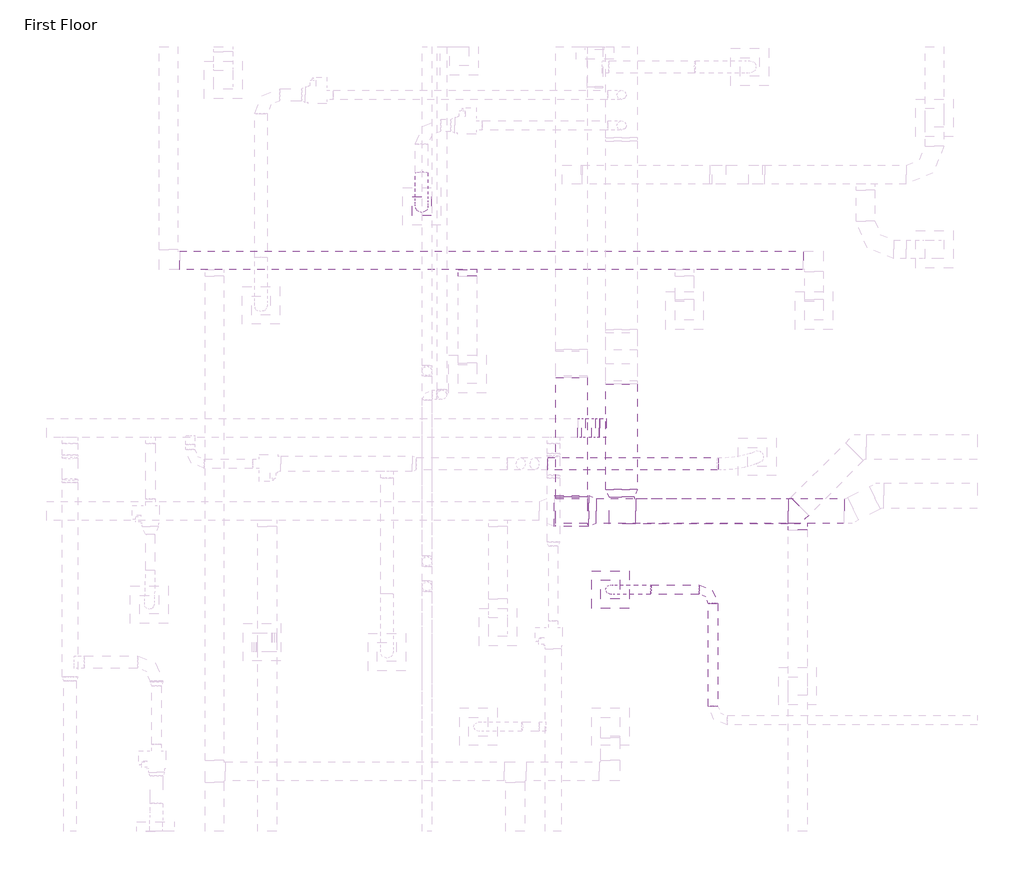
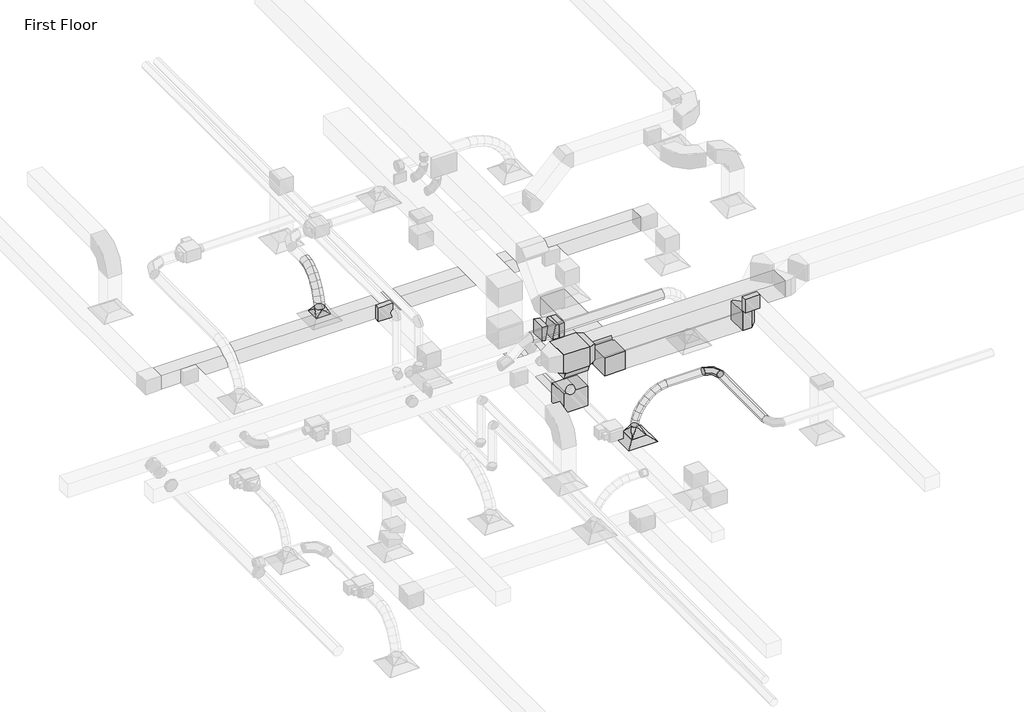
# One storey, part 7 of 61: 15 duct fittings, 13 duct segments, 1 air terminal.
"""IFC4 building model written with IfcOpenShell, lengths in millimetres."""

from ifc_helpers import new_model, si_unit, point, frame, frame_2d, origin, place, context, project, spatial, polyline, circle_curve, ellipse_curve, trimmed, segment, composite_curve, outline, extrude, transform, mapped, element, save
from ifc_brep_helpers import plane_surface, cylinder_surface, advanced_brep
from components import m_exhaust_grill_er_600_x_600_face_300_x_300_connection_ff221211, m_rectangular_elbow_mitered_standard_bc5a5ab9, m_rectangular_elbow_mitered_standard_a087e208, m_rectangular_elbow_mitered_standard_b8a34dab, m_rectangular_elbow_radius_1_5_w_c61c983d, m_rectangular_takeoff_standard_c00386d1, m_rectangular_takeoff_standard_b44bfa45, m_rectangular_tee_standard_384d0ccf, m_rectangular_transition_angle_45_degree_4ae395e8, m_rectangular_transition_angle_45_degree_444e99e6, m_rectangular_transition_angle_45_degree_66392caa, m_rectangular_to_round_transition_angle_45_degree_8f201c83, m_rectangular_to_round_transition_angle_45_degree_60daae35, m_round_elbow_1_5_d_2e586196

model = new_model("IFC4")

# Units and contexts
model_context = context("Model", 3, world=origin())
ifc_project = project(units=[si_unit("LENGTHUNIT", "METRE", prefix="MILLI")], contexts=[model_context])

# Site, building, storey
site = spatial("IfcSite", under=ifc_project)
building = spatial("IfcBuilding", under=site)
storey = spatial("IfcBuildingStorey", under=building, Name="First Floor", Elevation=0.0)

# Air terminal
placement = place(None, origin())
m_exhaust_grill_er_600_x_600_face_300_x_300_connection_shape = m_exhaust_grill_er_600_x_600_face_300_x_300_connection_ff221211(model_context)
element("IfcAirTerminal", 1, ObjectType="M_Supply Diffuser : SD-600 x 600 Face 300 x 300 Connection", at=placement, inside=storey, context=model_context, shape_type="MappedRepresentation", body=[
    mapped(m_exhaust_grill_er_600_x_600_face_300_x_300_connection_shape, transform((-39248.7372444, 9280.9107499, 2680.0), x_axis=(1.0, 0.0, 0.0), y_axis=(0.0, 1.0, 0.0), z_axis=(0.0, 0.0, 1.0))),
])

# Duct fittings
m_rectangular_elbow_mitered_standard_shape = m_rectangular_elbow_mitered_standard_bc5a5ab9(model_context)
element("IfcDuctFitting", 2, ObjectType="M_Rectangular Elbow - Mitered : Standard", at=placement, inside=storey, context=model_context, shape_type="MappedRepresentation", body=[
    mapped(m_rectangular_elbow_mitered_standard_shape, transform((-36300.5425343, 10530.5078624, 3609.5), x_axis=(1.0, 0.0, 0.0), y_axis=(0.0, 1.0, 0.0), z_axis=(0.0, 0.0, 1.0))),
])
m_rectangular_elbow_mitered_standard_2_shape = m_rectangular_elbow_mitered_standard_a087e208(model_context)
element("IfcDuctFitting", 3, ObjectType="M_Rectangular Elbow - Mitered : Standard", at=placement, inside=storey, context=model_context, shape_type="MappedRepresentation", body=[
    mapped(m_rectangular_elbow_mitered_standard_2_shape, transform((-39067.4195561, 10530.5078624, 3609.5), x_axis=(0.0, -1.0, 0.0), y_axis=(1.0, 0.0, 0.0), z_axis=(0.0, 0.0, 1.0))),
])
m_rectangular_elbow_mitered_standard_3_shape = m_rectangular_elbow_mitered_standard_b8a34dab(model_context)
element("IfcDuctFitting", 4, ObjectType="M_Rectangular Elbow - Mitered : Standard", at=placement, inside=storey, context=model_context, shape_type="MappedRepresentation", body=[
    mapped(m_rectangular_elbow_mitered_standard_3_shape, transform((-39867.4195561, 10534.5124787, 3081.0), x_axis=(0.0, 0.0, -1.0), y_axis=(0.0, 1.0, 0.0), z_axis=(1.0, 0.0, 0.0))),
])
m_rectangular_elbow_radius_1_5_w_shape = m_rectangular_elbow_radius_1_5_w_c61c983d(model_context)
element("IfcDuctFitting", 5, ObjectType="M_Rectangular Elbow - Radius : 1.5 W", at=placement, inside=storey, context=model_context, shape_type="MappedRepresentation", body=[
    mapped(m_rectangular_elbow_radius_1_5_w_shape, transform((-39720.9822846, 11861.1885196, 3659.6), x_axis=(-0.9805051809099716, 0.0, 0.19649323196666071), y_axis=(-0.19649323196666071, 0.0, -0.9805051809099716), z_axis=(0.0, -1.0, 0.0))),
])
element("IfcDuctFitting", 6, ObjectType="M_Rectangular Elbow - Radius : 1.5 W", at=placement, inside=storey, context=model_context, shape_type="MappedRepresentation", body=[
    mapped(m_rectangular_elbow_radius_1_5_w_shape, transform((-39470.9822766, 11861.1885196, 3609.5), x_axis=(0.9805051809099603, 0.0, -0.19649323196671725), y_axis=(0.19649323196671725, 0.0, 0.9805051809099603), z_axis=(0.0, -1.0, 0.0))),
])
m_rectangular_takeoff_standard_shape = m_rectangular_takeoff_standard_c00386d1(model_context)
element("IfcDuctFitting", 7, ObjectType="M_Rectangular Takeoff : Standard", at=placement, inside=storey, context=model_context, shape_type="MappedRepresentation", body=[
    mapped(m_rectangular_takeoff_standard_shape, transform((-36259.5438707, 10334.5124787, 4000.0), x_axis=(0.0, -1.0, 0.0), y_axis=(-1.0, 0.0, 0.0), z_axis=(0.0, 0.0, -1.0))),
])
element("IfcDuctFitting", 8, ObjectType="M_Rectangular Takeoff : Standard", at=placement, inside=storey, context=model_context, shape_type="MappedRepresentation", body=[
    mapped(m_rectangular_takeoff_standard_shape, transform((-39317.4195561, 11861.1885196, 3609.5), x_axis=(-1.0, 0.0, 0.0), y_axis=(0.0, 1.0, 0.0), z_axis=(0.0, 0.0, -1.0))),
])
m_rectangular_takeoff_standard_2_shape = m_rectangular_takeoff_standard_b44bfa45(model_context)
element("IfcDuctFitting", 9, ObjectType="M_Rectangular Takeoff : Standard", at=placement, inside=storey, context=model_context, shape_type="MappedRepresentation", body=[
    mapped(m_rectangular_takeoff_standard_2_shape, transform((-41527.8542363, 14384.3952, 3200.0), x_axis=(0.0, -1.0, 0.0), y_axis=(-1.0, 0.0, 0.0), z_axis=(0.0, 0.0, -1.0))),
])
m_rectangular_tee_standard_shape = m_rectangular_tee_standard_384d0ccf(model_context)
element("IfcDuctFitting", 10, ObjectType="M_Rectangular Tee : Standard", at=placement, inside=storey, context=model_context, shape_type="MappedRepresentation", body=[
    mapped(m_rectangular_tee_standard_shape, transform((-39867.4195561, 10534.5124787, 4000.0), x_axis=(-1.0, 0.0, 0.0), y_axis=(0.0, 0.0, 1.0), z_axis=(0.0, 1.0, 0.0))),
])
m_rectangular_transition_angle_45_degree_shape = m_rectangular_transition_angle_45_degree_4ae395e8(model_context)
element("IfcDuctFitting", 11, ObjectType="M_Rectangular Transition - Angle : 45 Degree", at=placement, inside=storey, context=model_context, shape_type="MappedRepresentation", body=[
    mapped(m_rectangular_transition_angle_45_degree_shape, transform((-39067.4195561, 10755.5078624, 3609.5), x_axis=(0.0, 1.0, 0.0), y_axis=(-1.0, 0.0, 0.0), z_axis=(0.0, 0.0, 1.0))),
])
m_rectangular_transition_angle_45_degree_2_shape = m_rectangular_transition_angle_45_degree_444e99e6(model_context)
element("IfcDuctFitting", 12, ObjectType="M_Rectangular Transition - Angle : 45 Degree", at=placement, inside=storey, context=model_context, shape_type="MappedRepresentation", body=[
    mapped(m_rectangular_transition_angle_45_degree_2_shape, transform((-39867.4195561, 10534.5124787, 3775.0), x_axis=(0.0, 0.0, -1.0), y_axis=(-1.0, 0.0, 0.0), z_axis=(0.0, 1.0, 0.0))),
])
m_rectangular_transition_angle_45_degree_3_shape = m_rectangular_transition_angle_45_degree_66392caa(model_context)
element("IfcDuctFitting", 13, ObjectType="M_Rectangular Transition - Angle : 45 Degree", at=placement, inside=storey, context=model_context, shape_type="MappedRepresentation", body=[
    mapped(m_rectangular_transition_angle_45_degree_3_shape, transform((-39592.4195561, 10534.5124787, 4000.0), x_axis=(1.0, 0.0, 0.0), y_axis=(0.0, 1.0, 0.0), z_axis=(0.0, 0.0, 1.0))),
])
m_rectangular_to_round_transition_angle_45_degree_shape = m_rectangular_to_round_transition_angle_45_degree_8f201c83(model_context)
element("IfcDuctFitting", 14, ObjectType="M_Rectangular to Round Transition - Angle : 45 Degree", at=placement, inside=storey, context=model_context, shape_type="MappedRepresentation", body=[
    mapped(m_rectangular_to_round_transition_angle_45_degree_shape, transform((-39248.7372444, 9280.9107499, 2781.6), x_axis=(0.0, 0.0, 1.0), y_axis=(1.0, 0.0, 0.0), z_axis=(0.0, 1.0, 0.0))),
])
m_rectangular_to_round_transition_angle_45_degree_2_shape = m_rectangular_to_round_transition_angle_45_degree_60daae35(model_context)
element("IfcDuctFitting", 15, ObjectType="M_Rectangular to Round Transition - Angle : 45 Degree", at=placement, inside=storey, context=model_context, shape_type="MappedRepresentation", body=[
    mapped(m_rectangular_to_round_transition_angle_45_degree_2_shape, transform((-42258.150392, 15399.5611412, 2781.6), x_axis=(0.0, 0.0, 1.0), y_axis=(1.0, 0.0, 0.0), z_axis=(0.0, 1.0, 0.0))),
])
m_round_elbow_1_5_d_shape = m_round_elbow_1_5_d_2e586196(model_context)
element("IfcDuctFitting", 16, ObjectType="M_Round Elbow : 1.5 D", at=placement, inside=storey, context=model_context, shape_type="MappedRepresentation", body=[
    mapped(m_round_elbow_1_5_d_shape, transform((-37607.2625281, 9280.9107499, 3644.1), x_axis=(0.0, 1.0, 0.0), y_axis=(-1.0, 0.0, 0.0), z_axis=(0.0, 0.0, 1.0))),
])

# Duct segments
element("IfcDuctSegment", 17, ObjectType="Flex - Round", at=placement, inside=storey, context=model_context, shape_type="AdvancedBrep", body=[
    advanced_brep(
    [(-38607.2625281, 9205.9107499, 3644.1), (-38595.4267802, 9280.9107499, 3570.0397875), (-38607.2625281, 9355.9107499, 3644.1), (-38619.0982759, 9280.9107499, 3718.1602125), (-38741.0209428, 9205.9107499, 3622.723733), (-38719.1636966, 9280.9107499, 3550.2650813), (-38741.0209428, 9355.9107499, 3622.723733), (-38762.8781891, 9280.9107499, 3695.1823848), (-39248.7372444, 9205.9107499, 2962.6660172), (-39323.0033413, 9280.9107499, 2973.1324801), (-39248.7372444, 9355.9107499, 2962.6660172), (-39174.4711474, 9280.9107499, 2952.1995543), (-38870.858733, 9205.9107499, 3563.5745662), (-38832.4447178, 9280.9107499, 3498.6585497), (-38870.858733, 9355.9107499, 3563.5745662), (-38909.2727482, 9280.9107499, 3628.4905827), (-38990.7044394, 9205.9107499, 3474.1219504), (-38940.3116745, 9280.9107499, 3418.1468507), (-38990.7044394, 9355.9107499, 3474.1219504), (-39041.0972043, 9280.9107499, 3530.09705), (-39094.4866029, 9205.9107499, 3361.8353366), (-39034.8913293, 9280.9107499, 3315.816847), (-39094.4866029, 9355.9107499, 3361.8353366), (-39154.0818764, 9280.9107499, 3407.8538262), (-39176.1337643, 9205.9107499, 3234.1841758), (-39109.0304497, 9280.9107499, 3199.9041244), (-39176.1337643, 9355.9107499, 3234.1841758), (-39243.2370789, 9280.9107499, 3268.4642273), (-39229.5744645, 9205.9107499, 3098.637919), (-39156.5467335, 9280.9107499, 3079.3844759), (-39229.5744645, 9355.9107499, 3098.637919), (-39302.6021955, 9280.9107499, 3117.8913621)],
    [
        (0, 1, circle_curve(frame((-38607.2625281, 9280.9107499, 3644.1), z_axis=(0.9874694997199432, 0.0, 0.15780997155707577), x_axis=(0.0, -1.0, 0.0)), 75.0)),
        (1, 2, circle_curve(frame((-38607.2625281, 9280.9107499, 3644.1), z_axis=(0.9874694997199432, 0.0, 0.15780997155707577), x_axis=(0.0, -1.0, 0.0)), 75.0)),
        (2, 3, circle_curve(frame((-38607.2625281, 9280.9107499, 3644.1), z_axis=(0.9874694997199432, 0.0, 0.15780997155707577), x_axis=(0.0, -1.0, 0.0)), 75.0)),
        (3, 0, circle_curve(frame((-38607.2625281, 9280.9107499, 3644.1), z_axis=(0.9874694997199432, 0.0, 0.15780997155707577), x_axis=(0.0, -1.0, 0.0)), 75.0)),
        (0, 4),
        (4, 5, ellipse_curve(frame((-38741.0209428, 9280.9107499, 3622.723733), z_axis=(0.9573900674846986, 0.0, 0.2887979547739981), x_axis=(0.28879795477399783, 0.0, -0.9573900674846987)), 75.6835215, 75.0)),
        (5, 1),
        (5, 6, ellipse_curve(frame((-38741.0209428, 9280.9107499, 3622.723733), z_axis=(0.9573900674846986, 0.0, 0.2887979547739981), x_axis=(0.28879795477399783, 0.0, -0.9573900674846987)), 75.6835215, 75.0)),
        (6, 2),
        (6, 7, ellipse_curve(frame((-38741.0209428, 9280.9107499, 3622.723733), z_axis=(0.9573900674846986, 0.0, 0.2887979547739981), x_axis=(0.28879795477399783, 0.0, -0.9573900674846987)), 75.6835215, 75.0)),
        (7, 3),
        (7, 4, ellipse_curve(frame((-38741.0209428, 9280.9107499, 3622.723733), z_axis=(0.9573900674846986, 0.0, 0.2887979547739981), x_axis=(0.28879795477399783, 0.0, -0.9573900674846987)), 75.6835215, 75.0)),
        (8, 9, circle_curve(frame((-39248.7372444, 9280.9107499, 2962.6660172), z_axis=(-0.13955283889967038, 0.0, -0.9902146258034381), x_axis=(0.0, -1.0, 0.0)), 75.0)),
        (9, 10, circle_curve(frame((-39248.7372444, 9280.9107499, 2962.6660172), z_axis=(-0.13955283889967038, 0.0, -0.9902146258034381), x_axis=(0.0, -1.0, 0.0)), 75.0)),
        (10, 11, circle_curve(frame((-39248.7372444, 9280.9107499, 2962.6660172), z_axis=(-0.13955283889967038, 0.0, -0.9902146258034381), x_axis=(0.0, -1.0, 0.0)), 75.0)),
        (11, 8, circle_curve(frame((-39248.7372444, 9280.9107499, 2962.6660172), z_axis=(-0.13955283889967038, 0.0, -0.9902146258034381), x_axis=(0.0, -1.0, 0.0)), 75.0)),
        (4, 12),
        (12, 13, ellipse_curve(frame((-38870.858733, 9280.9107499, 3563.5745662), z_axis=(0.86060961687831, 0.0, 0.5092652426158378), x_axis=(0.5092652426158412, 0.0, -0.8606096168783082)), 75.4302709, 75.0)),
        (13, 5),
        (13, 14, ellipse_curve(frame((-38870.858733, 9280.9107499, 3563.5745662), z_axis=(0.86060961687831, 0.0, 0.5092652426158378), x_axis=(0.5092652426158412, 0.0, -0.8606096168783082)), 75.4302709, 75.0)),
        (14, 6),
        (14, 15, ellipse_curve(frame((-38870.858733, 9280.9107499, 3563.5745662), z_axis=(0.86060961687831, 0.0, 0.5092652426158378), x_axis=(0.5092652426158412, 0.0, -0.8606096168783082)), 75.4302709, 75.0)),
        (15, 7),
        (15, 12, ellipse_curve(frame((-38870.858733, 9280.9107499, 3563.5745662), z_axis=(0.86060961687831, 0.0, 0.5092652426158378), x_axis=(0.5092652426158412, 0.0, -0.8606096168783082)), 75.4302709, 75.0)),
        (12, 16),
        (16, 17, ellipse_curve(frame((-38990.7044394, 9280.9107499, 3474.1219504), z_axis=(0.743193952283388, 0.0, 0.6690760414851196), x_axis=(0.6690760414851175, 0.0, -0.7431939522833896)), 75.3169472, 75.0)),
        (17, 13),
        (17, 18, ellipse_curve(frame((-38990.7044394, 9280.9107499, 3474.1219504), z_axis=(0.743193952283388, 0.0, 0.6690760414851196), x_axis=(0.6690760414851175, 0.0, -0.7431939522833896)), 75.3169472, 75.0)),
        (18, 14),
        (18, 19, ellipse_curve(frame((-38990.7044394, 9280.9107499, 3474.1219504), z_axis=(0.743193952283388, 0.0, 0.6690760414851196), x_axis=(0.6690760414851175, 0.0, -0.7431939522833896)), 75.3169472, 75.0)),
        (19, 15),
        (19, 16, ellipse_curve(frame((-38990.7044394, 9280.9107499, 3474.1219504), z_axis=(0.743193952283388, 0.0, 0.6690760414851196), x_axis=(0.6690760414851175, 0.0, -0.7431939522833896)), 75.3169472, 75.0)),
        (16, 20),
        (20, 21, ellipse_curve(frame((-39094.4866029, 9280.9107499, 3361.8353366), z_axis=(0.6111780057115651, 0.0, 0.7914931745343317), x_axis=(0.7914931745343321, 0.0, -0.6111780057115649)), 75.2947409, 75.0)),
        (21, 17),
        (21, 22, ellipse_curve(frame((-39094.4866029, 9280.9107499, 3361.8353366), z_axis=(0.6111780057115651, 0.0, 0.7914931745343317), x_axis=(0.7914931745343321, 0.0, -0.6111780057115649)), 75.2947409, 75.0)),
        (22, 18),
        (22, 23, ellipse_curve(frame((-39094.4866029, 9280.9107499, 3361.8353366), z_axis=(0.6111780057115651, 0.0, 0.7914931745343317), x_axis=(0.7914931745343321, 0.0, -0.6111780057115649)), 75.2947409, 75.0)),
        (23, 19),
        (23, 20, ellipse_curve(frame((-39094.4866029, 9280.9107499, 3361.8353366), z_axis=(0.6111780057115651, 0.0, 0.7914931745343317), x_axis=(0.7914931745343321, 0.0, -0.6111780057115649)), 75.2947409, 75.0)),
        (20, 24),
        (24, 25, ellipse_curve(frame((-39176.1337643, 9280.9107499, 3234.1841758), z_axis=(0.4549300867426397, 0.0, 0.8905271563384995), x_axis=(0.8905271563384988, 0.0, -0.45493008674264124)), 75.3523507, 75.0)),
        (25, 21),
        (25, 26, ellipse_curve(frame((-39176.1337643, 9280.9107499, 3234.1841758), z_axis=(0.4549300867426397, 0.0, 0.8905271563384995), x_axis=(0.8905271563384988, 0.0, -0.45493008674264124)), 75.3523507, 75.0)),
        (26, 22),
        (26, 27, ellipse_curve(frame((-39176.1337643, 9280.9107499, 3234.1841758), z_axis=(0.4549300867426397, 0.0, 0.8905271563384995), x_axis=(0.8905271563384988, 0.0, -0.45493008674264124)), 75.3523507, 75.0)),
        (27, 23),
        (27, 24, ellipse_curve(frame((-39176.1337643, 9280.9107499, 3234.1841758), z_axis=(0.4549300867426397, 0.0, 0.8905271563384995), x_axis=(0.8905271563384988, 0.0, -0.45493008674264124)), 75.3523507, 75.0)),
        (24, 28),
        (28, 29, ellipse_curve(frame((-39229.5744645, 9280.9107499, 3098.637919), z_axis=(0.25493435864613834, 0.0, 0.9669583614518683), x_axis=(0.9669583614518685, 0.0, -0.2549343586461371)), 75.5231393, 75.0)),
        (29, 25),
        (29, 30, ellipse_curve(frame((-39229.5744645, 9280.9107499, 3098.637919), z_axis=(0.25493435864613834, 0.0, 0.9669583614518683), x_axis=(0.9669583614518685, 0.0, -0.2549343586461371)), 75.5231393, 75.0)),
        (30, 26),
        (30, 31, ellipse_curve(frame((-39229.5744645, 9280.9107499, 3098.637919), z_axis=(0.25493435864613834, 0.0, 0.9669583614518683), x_axis=(0.9669583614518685, 0.0, -0.2549343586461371)), 75.5231393, 75.0)),
        (31, 27),
        (31, 28, ellipse_curve(frame((-39229.5744645, 9280.9107499, 3098.637919), z_axis=(0.25493435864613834, 0.0, 0.9669583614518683), x_axis=(0.9669583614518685, 0.0, -0.2549343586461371)), 75.5231393, 75.0)),
        (28, 8),
        (11, 29),
        (10, 30),
        (9, 31),
    ],
    [
        plane_surface(frame((-38607.2625281, 9355.9107499, 3644.1), z_axis=(0.9874694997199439, 0.0, 0.15780997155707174), x_axis=(0.15780997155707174, 0.0, -0.9874694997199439))),
        cylinder_surface(frame((-38607.2625281, 9280.9107499, 3644.1), z_axis=(0.9874694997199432, 0.0, 0.15780997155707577), x_axis=(0.0, -1.0, 0.0)), 75.0),
        plane_surface(frame((-39248.7372444, 9355.9107499, 2962.6660172), z_axis=(-0.1395528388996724, 0.0, -0.9902146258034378), x_axis=(0.9902146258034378, 0.0, -0.1395528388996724))),
        cylinder_surface(frame((-38741.0209428, 9280.9107499, 3622.723733), z_axis=(0.9100176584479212, 0.0, 0.4145694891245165), x_axis=(0.0, -1.0, 0.0)), 75.0),
        cylinder_surface(frame((-38870.858733, 9280.9107499, 3563.5745662), z_axis=(0.8013833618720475, 0.0, 0.5981510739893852), x_axis=(0.0, -1.0, 0.0)), 75.0),
        cylinder_surface(frame((-38990.7044394, 9280.9107499, 3474.1219504), z_axis=(0.6787495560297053, 0.0, 0.7343698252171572), x_axis=(0.0, -1.0, 0.0)), 75.0),
        cylinder_surface(frame((-39094.4866029, 9280.9107499, 3361.8353366), z_axis=(0.5388215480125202, 0.0, 0.8424199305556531), x_axis=(0.0, -1.0, 0.0)), 75.0),
        cylinder_surface(frame((-39176.1337643, 9280.9107499, 3234.1841758), z_axis=(0.36678408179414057, 0.0, 0.9303060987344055), x_axis=(0.0, -1.0, 0.0)), 75.0),
        cylinder_surface(frame((-39229.5744645, 9280.9107499, 3098.637919), z_axis=(0.13955283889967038, 0.0, 0.9902146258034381), x_axis=(0.0, -1.0, 0.0)), 75.0),
    ],
    [
        (0, [[1, 2, 3, 4]]),
        (1, [[-1, 5, 6, 7]]),
        (1, [[-2, -7, 8, 9]]),
        (1, [[-3, -9, 10, 11]]),
        (1, [[-4, -11, 12, -5]]),
        (2, [[13, 14, 15, 16]]),
        (3, [[-6, 17, 18, 19]]),
        (3, [[-8, -19, 20, 21]]),
        (3, [[-10, -21, 22, 23]]),
        (3, [[-12, -23, 24, -17]]),
        (4, [[-18, 25, 26, 27]]),
        (4, [[-20, -27, 28, 29]]),
        (4, [[-22, -29, 30, 31]]),
        (4, [[-24, -31, 32, -25]]),
        (5, [[-26, 33, 34, 35]]),
        (5, [[-28, -35, 36, 37]]),
        (5, [[-30, -37, 38, 39]]),
        (5, [[-32, -39, 40, -33]]),
        (6, [[-34, 41, 42, 43]]),
        (6, [[-36, -43, 44, 45]]),
        (6, [[-38, -45, 46, 47]]),
        (6, [[-40, -47, 48, -41]]),
        (7, [[-42, 49, 50, 51]]),
        (7, [[-44, -51, 52, 53]]),
        (7, [[-46, -53, 54, 55]]),
        (7, [[-48, -55, 56, -49]]),
        (8, [[-50, 57, -16, 58]]),
        (8, [[-52, -58, -15, 59]]),
        (8, [[-54, -59, -14, 60]]),
        (8, [[-56, -60, -13, -57]]),
    ],
),
])
element("IfcDuctSegment", 18, ObjectType="Flex - Round", at=placement, inside=storey, context=model_context, shape_type="AdvancedBrep", body=[
    advanced_brep(
    [(-42158.150392, 15932.7006738, 3619.1), (-42258.150392, 15949.5996504, 3520.5382194), (-42358.150392, 15932.7006738, 3619.1), (-42258.150392, 15915.8016971, 3717.6617806), (-42158.150392, 15824.2986008, 3600.5138494), (-42258.150392, 15856.2924991, 3504.5401788), (-42358.150392, 15824.2986008, 3600.5138494), (-42258.150392, 15792.3047025, 3696.4875199), (-42158.150392, 15399.5611412, 2902.3106781), (-42258.150392, 15299.9813586, 2911.4685651), (-42358.150392, 15399.5611412, 2902.3106781), (-42258.150392, 15499.1409238, 2893.1527911), (-42158.150392, 15723.7741764, 3548.9761503), (-42258.150392, 15780.0339232, 3465.443297), (-42358.150392, 15723.7741764, 3548.9761503), (-42258.150392, 15667.5144296, 3632.5090035), (-42158.150392, 15633.1542379, 3470.818032), (-42258.150392, 15705.4827439, 3401.1442036), (-42358.150392, 15633.1542379, 3470.818032), (-42258.150392, 15560.8257319, 3540.4918604), (-42158.150392, 15554.4656227, 3372.3706239), (-42258.150392, 15637.3281897, 3315.8759702), (-42358.150392, 15554.4656227, 3372.3706239), (-42258.150392, 15471.6030556, 3428.8652776), (-42158.150392, 15489.735168, 3259.9650551), (-42258.150392, 15579.8103246, 3215.9951895), (-42358.150392, 15489.735168, 3259.9650551), (-42258.150392, 15399.6600115, 3303.9349208), (-42158.150392, 15440.9897113, 3139.9324551), (-42258.150392, 15536.2351349, 3108.6940445), (-42358.150392, 15440.9897113, 3139.9324551), (-42258.150392, 15345.7442878, 3171.1708657), (-42158.150392, 15410.2560899, 3018.603953), (-42258.150392, 15509.118339, 3001.6438475), (-42358.150392, 15410.2560899, 3018.603953), (-42258.150392, 15311.3938409, 3035.5640584)],
    [
        (0, 1, circle_curve(frame((-42258.150392, 15932.7006738, 3619.1), z_axis=(0.0, 0.9856178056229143, 0.16898976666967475), x_axis=(1.0, 0.0, 0.0)), 100.0)),
        (1, 2, circle_curve(frame((-42258.150392, 15932.7006738, 3619.1), z_axis=(0.0, 0.9856178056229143, 0.16898976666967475), x_axis=(1.0, 0.0, 0.0)), 100.0)),
        (2, 3, circle_curve(frame((-42258.150392, 15932.7006738, 3619.1), z_axis=(0.0, 0.9856178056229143, 0.16898976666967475), x_axis=(1.0, 0.0, 0.0)), 100.0)),
        (3, 0, circle_curve(frame((-42258.150392, 15932.7006738, 3619.1), z_axis=(0.0, 0.9856178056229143, 0.16898976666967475), x_axis=(1.0, 0.0, 0.0)), 100.0)),
        (0, 4),
        (4, 5, ellipse_curve(frame((-42258.150392, 15824.2986008, 3600.5138494), z_axis=(0.0, 0.9486753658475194, 0.3162515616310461), x_axis=(0.0, 0.3162515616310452, -0.9486753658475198)), 101.1659773, 100.0)),
        (5, 1),
        (5, 6, ellipse_curve(frame((-42258.150392, 15824.2986008, 3600.5138494), z_axis=(0.0, 0.9486753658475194, 0.3162515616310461), x_axis=(0.0, 0.3162515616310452, -0.9486753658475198)), 101.1659773, 100.0)),
        (6, 2),
        (6, 7, ellipse_curve(frame((-42258.150392, 15824.2986008, 3600.5138494), z_axis=(0.0, 0.9486753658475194, 0.3162515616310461), x_axis=(0.0, 0.3162515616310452, -0.9486753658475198)), 101.1659773, 100.0)),
        (7, 3),
        (7, 4, ellipse_curve(frame((-42258.150392, 15824.2986008, 3600.5138494), z_axis=(0.0, 0.9486753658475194, 0.3162515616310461), x_axis=(0.0, 0.3162515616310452, -0.9486753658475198)), 101.1659773, 100.0)),
        (8, 9, circle_curve(frame((-42258.150392, 15399.5611412, 2902.3106781), z_axis=(0.0, -0.09157887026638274, -0.9957978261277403), x_axis=(1.0, 0.0, 0.0)), 100.0)),
        (9, 10, circle_curve(frame((-42258.150392, 15399.5611412, 2902.3106781), z_axis=(0.0, -0.09157887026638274, -0.9957978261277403), x_axis=(1.0, 0.0, 0.0)), 100.0)),
        (10, 11, circle_curve(frame((-42258.150392, 15399.5611412, 2902.3106781), z_axis=(0.0, -0.09157887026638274, -0.9957978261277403), x_axis=(1.0, 0.0, 0.0)), 100.0)),
        (11, 8, circle_curve(frame((-42258.150392, 15399.5611412, 2902.3106781), z_axis=(0.0, -0.09157887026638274, -0.9957978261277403), x_axis=(1.0, 0.0, 0.0)), 100.0)),
        (4, 12),
        (12, 13, ellipse_curve(frame((-42258.150392, 15723.7741764, 3548.9761503), z_axis=(0.0, 0.8294234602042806, 0.5586203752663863), x_axis=(0.0, 0.5586203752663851, -0.8294234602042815)), 100.7119491, 100.0)),
        (13, 5),
        (13, 14, ellipse_curve(frame((-42258.150392, 15723.7741764, 3548.9761503), z_axis=(0.0, 0.8294234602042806, 0.5586203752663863), x_axis=(0.0, 0.5586203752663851, -0.8294234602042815)), 100.7119491, 100.0)),
        (14, 6),
        (14, 15, ellipse_curve(frame((-42258.150392, 15723.7741764, 3548.9761503), z_axis=(0.0, 0.8294234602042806, 0.5586203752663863), x_axis=(0.0, 0.5586203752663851, -0.8294234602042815)), 100.7119491, 100.0)),
        (15, 7),
        (15, 12, ellipse_curve(frame((-42258.150392, 15723.7741764, 3548.9761503), z_axis=(0.0, 0.8294234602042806, 0.5586203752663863), x_axis=(0.0, 0.5586203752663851, -0.8294234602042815)), 100.7119491, 100.0)),
        (12, 16),
        (16, 17, ellipse_curve(frame((-42258.150392, 15633.1542379, 3470.818032), z_axis=(0.0, 0.6937664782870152, 0.7202000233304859), x_axis=(0.0, 0.7202000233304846, -0.6937664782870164)), 100.4283583, 100.0)),
        (17, 13),
        (17, 18, ellipse_curve(frame((-42258.150392, 15633.1542379, 3470.818032), z_axis=(0.0, 0.6937664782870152, 0.7202000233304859), x_axis=(0.0, 0.7202000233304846, -0.6937664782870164)), 100.4283583, 100.0)),
        (18, 14),
        (18, 19, ellipse_curve(frame((-42258.150392, 15633.1542379, 3470.818032), z_axis=(0.0, 0.6937664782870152, 0.7202000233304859), x_axis=(0.0, 0.7202000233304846, -0.6937664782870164)), 100.4283583, 100.0)),
        (19, 15),
        (19, 16, ellipse_curve(frame((-42258.150392, 15633.1542379, 3470.818032), z_axis=(0.0, 0.6937664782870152, 0.7202000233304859), x_axis=(0.0, 0.7202000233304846, -0.6937664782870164)), 100.4283583, 100.0)),
        (16, 20),
        (20, 21, ellipse_curve(frame((-42258.150392, 15554.4656227, 3372.3706239), z_axis=(0.0, 0.5633194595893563, 0.8262391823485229), x_axis=(0.0, 0.8262391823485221, -0.5633194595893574)), 100.2888374, 100.0)),
        (21, 17),
        (21, 22, ellipse_curve(frame((-42258.150392, 15554.4656227, 3372.3706239), z_axis=(0.0, 0.5633194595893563, 0.8262391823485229), x_axis=(0.0, 0.8262391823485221, -0.5633194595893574)), 100.2888374, 100.0)),
        (22, 18),
        (22, 23, ellipse_curve(frame((-42258.150392, 15554.4656227, 3372.3706239), z_axis=(0.0, 0.5633194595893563, 0.8262391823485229), x_axis=(0.0, 0.8262391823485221, -0.5633194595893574)), 100.2888374, 100.0)),
        (23, 19),
        (23, 20, ellipse_curve(frame((-42258.150392, 15554.4656227, 3372.3706239), z_axis=(0.0, 0.5633194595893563, 0.8262391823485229), x_axis=(0.0, 0.8262391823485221, -0.5633194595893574)), 100.2888374, 100.0)),
        (20, 24),
        (24, 25, ellipse_curve(frame((-42258.150392, 15489.735168, 3259.9650551), z_axis=(0.0, 0.4386715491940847, 0.8986474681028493), x_axis=(0.0, 0.8986474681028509, -0.4386715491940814)), 100.2341404, 100.0)),
        (25, 21),
        (25, 26, ellipse_curve(frame((-42258.150392, 15489.735168, 3259.9650551), z_axis=(0.0, 0.4386715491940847, 0.8986474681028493), x_axis=(0.0, 0.8986474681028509, -0.4386715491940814)), 100.2341404, 100.0)),
        (26, 22),
        (26, 27, ellipse_curve(frame((-42258.150392, 15489.735168, 3259.9650551), z_axis=(0.0, 0.4386715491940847, 0.8986474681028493), x_axis=(0.0, 0.8986474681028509, -0.4386715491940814)), 100.2341404, 100.0)),
        (27, 23),
        (27, 24, ellipse_curve(frame((-42258.150392, 15489.735168, 3259.9650551), z_axis=(0.0, 0.4386715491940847, 0.8986474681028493), x_axis=(0.0, 0.8986474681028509, -0.4386715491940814)), 100.2341404, 100.0)),
        (24, 28),
        (28, 29, ellipse_curve(frame((-42258.150392, 15440.9897113, 3139.9324551), z_axis=(0.0, 0.3116443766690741, 0.9501988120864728), x_axis=(0.0, 0.9501988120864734, -0.3116443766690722)), 100.2373633, 100.0)),
        (29, 25),
        (29, 30, ellipse_curve(frame((-42258.150392, 15440.9897113, 3139.9324551), z_axis=(0.0, 0.3116443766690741, 0.9501988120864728), x_axis=(0.0, 0.9501988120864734, -0.3116443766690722)), 100.2373633, 100.0)),
        (30, 26),
        (30, 31, ellipse_curve(frame((-42258.150392, 15440.9897113, 3139.9324551), z_axis=(0.0, 0.3116443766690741, 0.9501988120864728), x_axis=(0.0, 0.9501988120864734, -0.3116443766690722)), 100.2373633, 100.0)),
        (31, 27),
        (31, 28, ellipse_curve(frame((-42258.150392, 15440.9897113, 3139.9324551), z_axis=(0.0, 0.3116443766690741, 0.9501988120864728), x_axis=(0.0, 0.9501988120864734, -0.3116443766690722)), 100.2373633, 100.0)),
        (28, 32),
        (32, 33, ellipse_curve(frame((-42258.150392, 15410.2560899, 3018.603953), z_axis=(0.0, 0.16908285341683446, 0.9856018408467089), x_axis=(0.0, 0.9856018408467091, -0.16908285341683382)), 100.3064777, 100.0)),
        (33, 29),
        (33, 34, ellipse_curve(frame((-42258.150392, 15410.2560899, 3018.603953), z_axis=(0.0, 0.16908285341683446, 0.9856018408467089), x_axis=(0.0, 0.9856018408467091, -0.16908285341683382)), 100.3064777, 100.0)),
        (34, 30),
        (34, 35, ellipse_curve(frame((-42258.150392, 15410.2560899, 3018.603953), z_axis=(0.0, 0.16908285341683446, 0.9856018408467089), x_axis=(0.0, 0.9856018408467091, -0.16908285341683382)), 100.3064777, 100.0)),
        (35, 31),
        (35, 32, ellipse_curve(frame((-42258.150392, 15410.2560899, 3018.603953), z_axis=(0.0, 0.16908285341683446, 0.9856018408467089), x_axis=(0.0, 0.9856018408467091, -0.16908285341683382)), 100.3064777, 100.0)),
        (32, 8),
        (11, 33),
        (10, 34),
        (9, 35),
    ],
    [
        plane_surface(frame((-42258.150392, 15949.5996504, 3520.5382194), z_axis=(0.0, 0.985617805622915, 0.16898976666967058), x_axis=(1.0, 0.0, 0.0))),
        cylinder_surface(frame((-42258.150392, 15932.7006738, 3619.1), z_axis=(0.0, 0.9856178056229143, 0.16898976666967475), x_axis=(1.0, 0.0, 0.0)), 100.0),
        plane_surface(frame((-42258.150392, 15499.1409238, 2893.1527911), z_axis=(0.0, -0.09157887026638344, -0.9957978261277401), x_axis=(1.0, 0.0, 0.0))),
        cylinder_surface(frame((-42258.150392, 15824.2986008, 3600.5138494), z_axis=(0.0, 0.8898652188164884, 0.45622351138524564), x_axis=(1.0, 0.0, 0.0)), 100.0),
        cylinder_surface(frame((-42258.150392, 15723.7741764, 3548.9761503), z_axis=(0.0, 0.7572550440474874, 0.65311928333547), x_axis=(1.0, 0.0, 0.0)), 100.0),
        cylinder_surface(frame((-42258.150392, 15633.1542379, 3470.818032), z_axis=(0.0, 0.6243596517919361, 0.7811370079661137), x_axis=(1.0, 0.0, 0.0)), 100.0),
        cylinder_surface(frame((-42258.150392, 15554.4656227, 3372.3706239), z_axis=(0.0, 0.4990344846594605, 0.8665821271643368), x_axis=(1.0, 0.0, 0.0)), 100.0),
        cylinder_surface(frame((-42258.150392, 15489.735168, 3259.9650551), z_axis=(0.0, 0.3762591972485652, 0.9265144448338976), x_axis=(1.0, 0.0, 0.0)), 100.0),
        cylinder_surface(frame((-42258.150392, 15440.9897113, 3139.9324551), z_axis=(0.0, 0.24555360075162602, 0.9693830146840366), x_axis=(1.0, 0.0, 0.0)), 100.0),
        cylinder_surface(frame((-42258.150392, 15410.2560899, 3018.603953), z_axis=(0.0, 0.09157887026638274, 0.9957978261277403), x_axis=(1.0, 0.0, 0.0)), 100.0),
    ],
    [
        (0, [[1, 2, 3, 4]]),
        (1, [[-1, 5, 6, 7]]),
        (1, [[-2, -7, 8, 9]]),
        (1, [[-3, -9, 10, 11]]),
        (1, [[-4, -11, 12, -5]]),
        (2, [[13, 14, 15, 16]]),
        (3, [[-6, 17, 18, 19]]),
        (3, [[-8, -19, 20, 21]]),
        (3, [[-10, -21, 22, 23]]),
        (3, [[-12, -23, 24, -17]]),
        (4, [[-18, 25, 26, 27]]),
        (4, [[-20, -27, 28, 29]]),
        (4, [[-22, -29, 30, 31]]),
        (4, [[-24, -31, 32, -25]]),
        (5, [[-26, 33, 34, 35]]),
        (5, [[-28, -35, 36, 37]]),
        (5, [[-30, -37, 38, 39]]),
        (5, [[-32, -39, 40, -33]]),
        (6, [[-34, 41, 42, 43]]),
        (6, [[-36, -43, 44, 45]]),
        (6, [[-38, -45, 46, 47]]),
        (6, [[-40, -47, 48, -41]]),
        (7, [[-42, 49, 50, 51]]),
        (7, [[-44, -51, 52, 53]]),
        (7, [[-46, -53, 54, 55]]),
        (7, [[-48, -55, 56, -49]]),
        (8, [[-50, 57, 58, 59]]),
        (8, [[-52, -59, 60, 61]]),
        (8, [[-54, -61, 62, 63]]),
        (8, [[-56, -63, 64, -57]]),
        (9, [[-58, 65, -16, 66]]),
        (9, [[-60, -66, -15, 67]]),
        (9, [[-62, -67, -14, 68]]),
        (9, [[-64, -68, -13, -65]]),
    ],
),
])
element("IfcDuctSegment", 19, ObjectType="Mitered Elbows / Taps", at=placement, inside=storey, context=model_context, shape_type="SweptSolid", body=[
    extrude(outline(polyline([(-36408.3852468, 10730.5078624), (-36408.3852468, 10330.5078624), (-38842.4195561, 10330.5078624), (-38842.4195561, 10730.5078624), (-36408.3852468, 10730.5078624)])), frame((0.0, 0.0, 3409.5), z_axis=(0.0, 0.0, 1.0), x_axis=(1.0, 0.0, 0.0)), (0.0, 0.0, 1.0), 400.0),
])
element("IfcDuctSegment", 20, ObjectType="Mitered Elbows / Taps", at=placement, inside=storey, context=model_context, shape_type="SweptSolid", body=[
    extrude(outline(polyline([(-38817.4195561, 10876.2185405), (-39317.4195561, 10876.2185405), (-39317.4195561, 12562.6651509), (-38817.4195561, 12562.6651509), (-38817.4195561, 10876.2185405)])), frame((0.0, 0.0, 3409.5), z_axis=(0.0, 0.0, 1.0), x_axis=(1.0, 0.0, 0.0)), (0.0, 0.0, 1.0), 400.0),
])
element("IfcDuctSegment", 21, ObjectType="Mitered Elbows / Taps", at=placement, inside=storey, context=model_context, shape_type="SweptSolid", body=[
    extrude(outline(polyline([(-39471.708878, 10334.5124787), (-39471.708878, 10734.5124787), (-35512.1812257, 10734.5124787), (-35512.1812257, 10334.5124787), (-39471.708878, 10334.5124787)])), frame((0.0, 0.0, 3825.0), z_axis=(0.0, 0.0, 1.0), x_axis=(1.0, 0.0, 0.0)), (0.0, 0.0, 1.0), 350.0),
])
element("IfcDuctSegment", 22, ObjectType="Mitered Elbows / Taps", at=placement, inside=storey, context=model_context, shape_type="SweptSolid", body=[
    extrude(outline(polyline([(-40117.4195561, 10334.5124787), (-40117.4195561, 10734.5124787), (-39617.4195561, 10734.5124787), (-39617.4195561, 10334.5124787), (-40117.4195561, 10334.5124787)])), frame((0.0, 0.0, 3306.0), z_axis=(0.0, 0.0, 1.0), x_axis=(1.0, 0.0, 0.0)), (0.0, 0.0, 1.0), 348.2893219),
])
element("IfcDuctSegment", 23, ObjectType="Mitered Elbows / Taps", at=placement, inside=storey, context=model_context, shape_type="SweptSolid", body=[
    extrude(outline(polyline([(-39617.4195561, 10759.5124787), (-40117.4195561, 10759.5124787), (-40117.4195561, 12663.1855307), (-39617.4195561, 12663.1855307), (-39617.4195561, 10759.5124787)])), frame((0.0, 0.0, 2881.0), z_axis=(0.0, 0.0, 1.0), x_axis=(1.0, 0.0, 0.0)), (0.0, 0.0, 1.0), 400.0),
])
element("IfcDuctSegment", 24, ObjectType="Mitered Elbows / Taps", at=placement, inside=storey, context=model_context, shape_type="SweptSolid", body=[
    extrude(outline(polyline([(-36172.5612377, 14684.3952), (-36172.5612377, 14384.3952), (-46122.5612377, 14384.3952), (-46122.5612377, 14684.3952), (-36172.5612377, 14684.3952)])), frame((0.0, 0.0, 3050.0), z_axis=(0.0, 0.0, 1.0), x_axis=(1.0, 0.0, 0.0)), (0.0, 0.0, 1.0), 300.0),
])
element("IfcDuctSegment", 25, ObjectType="Radius Elbows / Taps", at=placement, inside=storey, context=model_context, shape_type="SweptSolid", body=[
    extrude(outline(polyline([(-39426.336115, 11711.1885196), (-39426.336115, 12011.1885196), (-39417.4195561, 12011.1885196), (-39417.4195561, 11711.1885196), (-39426.336115, 11711.1885196)])), frame((0.0, 0.0, 3459.5), z_axis=(0.0, 0.0, 1.0), x_axis=(1.0, 0.0, 0.0)), (0.0, 0.0, 1.0), 300.0),
])
element("IfcDuctSegment", 26, ObjectType="Radius Elbows / Taps", at=placement, inside=storey, context=model_context, shape_type="SweptSolid", body=[
    extrude(outline(polyline([(0.0, -300.0), (0.0, 0.0), (165.6782907, 0.0), (165.6782907, -300.0), (0.0, -300.0)])), frame((-39544.2320542, 11711.1885196, 3471.1968915), z_axis=(0.19649323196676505, 0.0, 0.9805051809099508), x_axis=(-0.9805051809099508, 0.0, 0.19649323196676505)), (0.0, 0.0, 1.0), 300.0),
])
element("IfcDuctSegment", 27, ObjectType="Taps", at=placement, inside=storey, context=model_context, shape_type="SweptSolid", body=[
    extrude(outline(composite_curve([segment(trimmed(circle_curve(frame_2d((3644.1, -37607.2625281)), 75.0), [point((3644.1, -37532.2625281))], [point((3719.1, -37607.2625281))], False, "CARTESIAN"), True, "CONTINUOUS"), segment(trimmed(circle_curve(frame_2d((3644.1, -37607.2625281)), 75.0), [point((3719.1, -37607.2625281))], [point((3644.1, -37682.2625281))], False, "CARTESIAN"), True, "CONTINUOUS"), segment(trimmed(circle_curve(frame_2d((3644.1, -37607.2625281)), 75.0), [point((3644.1, -37682.2625281))], [point((3569.1, -37607.2625281))], False, "CARTESIAN"), True, "CONTINUOUS"), segment(trimmed(circle_curve(frame_2d((3644.1, -37607.2625281)), 75.0), [point((3569.1, -37607.2625281))], [point((3644.1, -37532.2625281))], False, "CARTESIAN"), True, "CONTINUOUS")], self_intersect=False)), frame((0.0, 7417.6438141, 0.0), z_axis=(0.0, 1.0, 0.0), x_axis=(0.0, 0.0, 1.0)), (0.0, 0.0, 1.0), 1638.2669357),
])
element("IfcDuctSegment", 28, ObjectType="Taps", at=placement, inside=storey, context=model_context, shape_type="SweptSolid", body=[
    extrude(outline(composite_curve([segment(trimmed(circle_curve(frame_2d((9280.9107499, 3644.1)), 75.0), [point((9355.9107499, 3644.1))], [point((9280.9107499, 3569.1))], False, "CARTESIAN"), True, "CONTINUOUS"), segment(trimmed(circle_curve(frame_2d((9280.9107499, 3644.1)), 75.0), [point((9280.9107499, 3569.1))], [point((9205.9107499, 3644.1))], False, "CARTESIAN"), True, "CONTINUOUS"), segment(trimmed(circle_curve(frame_2d((9280.9107499, 3644.1)), 75.0), [point((9205.9107499, 3644.1))], [point((9280.9107499, 3719.1))], False, "CARTESIAN"), True, "CONTINUOUS"), segment(trimmed(circle_curve(frame_2d((9280.9107499, 3644.1)), 75.0), [point((9280.9107499, 3719.1))], [point((9355.9107499, 3644.1))], False, "CARTESIAN"), True, "CONTINUOUS")], self_intersect=False)), frame((-38607.2625281, 0.0, 0.0), z_axis=(1.0, 0.0, 0.0), x_axis=(0.0, 1.0, 0.0)), (0.0, 0.0, 1.0), 775.0),
])
element("IfcDuctSegment", 29, ObjectType="Taps", at=placement, inside=storey, context=model_context, shape_type="SweptSolid", body=[
    extrude(outline(composite_curve([segment(trimmed(circle_curve(frame_2d((0.0, 100.0)), 100.0), [point((-100.0, 100.0))], [point((0.0, 200.0))], False, "CARTESIAN"), True, "CONTINUOUS"), segment(trimmed(circle_curve(frame_2d((0.0, 100.0)), 100.0), [point((0.0, 200.0))], [point((100.0, 100.0))], False, "CARTESIAN"), True, "CONTINUOUS"), segment(trimmed(circle_curve(frame_2d((0.0, 100.0)), 100.0), [point((100.0, 100.0))], [point((0.0, 0.0))], False, "CARTESIAN"), True, "CONTINUOUS"), segment(trimmed(circle_curve(frame_2d((0.0, 100.0)), 100.0), [point((0.0, 0.0))], [point((-100.0, 100.0))], False, "CARTESIAN"), True, "CONTINUOUS")], self_intersect=False)), frame((-40245.3329182, 11288.3243958, 3915.0797975), z_axis=(0.999999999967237, 0.0, 8.094820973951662e-06), x_axis=(0.0, 1.0, 0.0)), (0.0, 0.0, 1.0), 2715.7349254),
])

save(model, "model.ifc")
